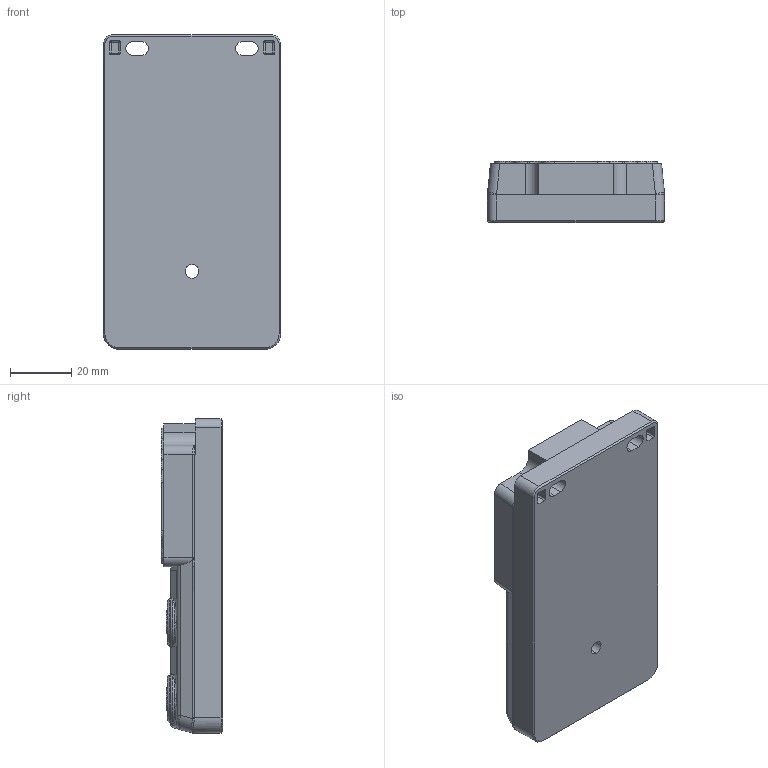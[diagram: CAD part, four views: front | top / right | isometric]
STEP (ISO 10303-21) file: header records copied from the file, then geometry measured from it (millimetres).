
FILE_DESCRIPTION((''),'2;1');
FILE_NAME('24N409','2023-06-27T',('PC'),(''),'PRO/ENGINEER BY PARAMETRIC TECHNOLOGY CORPORATION, 2009220','PRO/ENGINEER BY PARAMETRIC TECHNOLOGY CORPORATION, 2009220','');
FILE_SCHEMA(('CONFIG_CONTROL_DESIGN'));
Products named in the file (1): 24N409
Bounding box: 58 x 20 x 103 mm (x, y, z)
Volume: 82056.6 mm3; surface area: 29332.3 mm2
Topology: 1 solids, 5 shells, 1399 faces, 3767 edges, 2464 vertices
Faces by surface type: plane 766, cylinder 347, cone 166, torus 60, bspline 52, sphere 8
Entity records: 67453 total; most frequent: CARTESIAN_POINT 32313, ORIENTED_EDGE 7534, DIRECTION 6967, EDGE_CURVE 3767, VECTOR 2477, LINE 2477, VERTEX_POINT 2464, AXIS2_PLACEMENT_3D 2245
